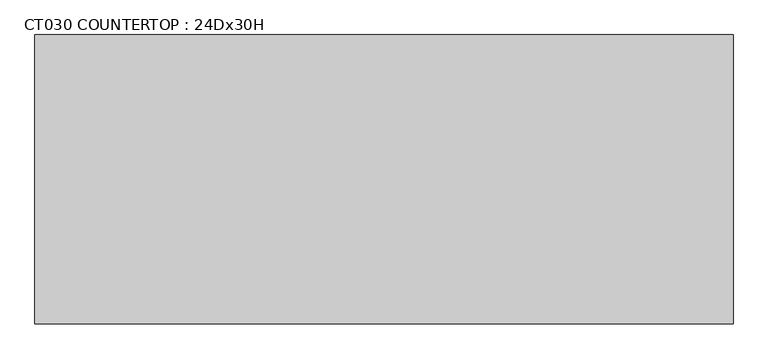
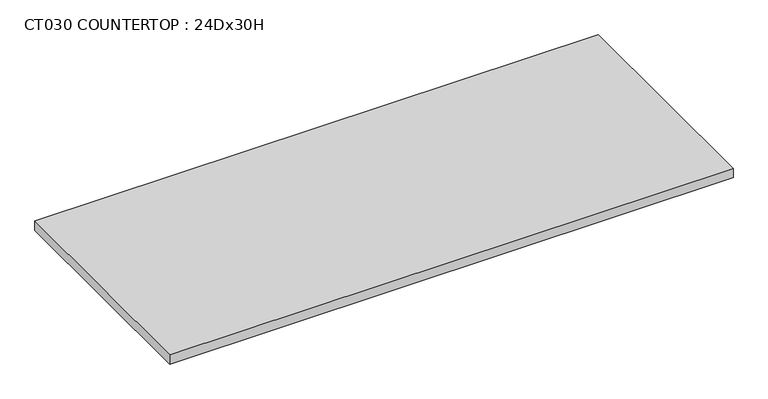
"""IFC4 building model written with IfcOpenShell, lengths in millimetres: furniture geometry, CT030 COUNTERTOP : 24Dx30H."""

from ifc_helpers import new_model, si_unit, frame, origin, place, context, project, spatial, polyline, outline, extrude, source, transform, mapped, element, save


def ct030_countertop_24dx30h_820104b9(model_context):
    return source(origin(), model_context, "Body", "SweptSolid", [
        extrude(outline(polyline([(271.149881, -615.0), (271.149881, -1224.6), (-1200.4622951, -1224.6), (-1200.4622951, -615.0), (271.149881, -615.0)])), frame((0.0, 0.0, 736.6), z_axis=(0.0, 0.0, 1.0), x_axis=(1.0, 0.0, 0.0)), (0.0, 0.0, 1.0), 25.4),
    ])


if __name__ == "__main__":
    model = new_model("IFC4")
    model_context = context("Model", 3, world=origin())
    ifc_project = project(units=[si_unit("LENGTHUNIT", "METRE", prefix="MILLI")], contexts=[model_context])
    site = spatial("IfcSite", under=ifc_project)
    building = spatial("IfcBuilding", under=site)
    placement = place(None, origin())
    ct030_countertop_24dx30h_shape = ct030_countertop_24dx30h_820104b9(model_context)
    element("IfcFurniture", 1, ObjectType="CT030 COUNTERTOP : 24Dx30H", at=placement, inside=building, context=model_context, shape_type="MappedRepresentation", body=[
        mapped(ct030_countertop_24dx30h_shape, transform((0.0, 0.0, 0.0), x_axis=(1.0, 0.0, 0.0), y_axis=(0.0, 1.0, 0.0), z_axis=(0.0, 0.0, 1.0))),
    ])
    save(model, "model.ifc")
